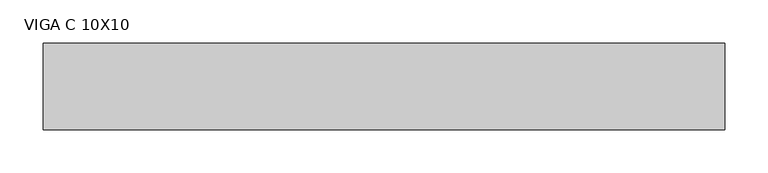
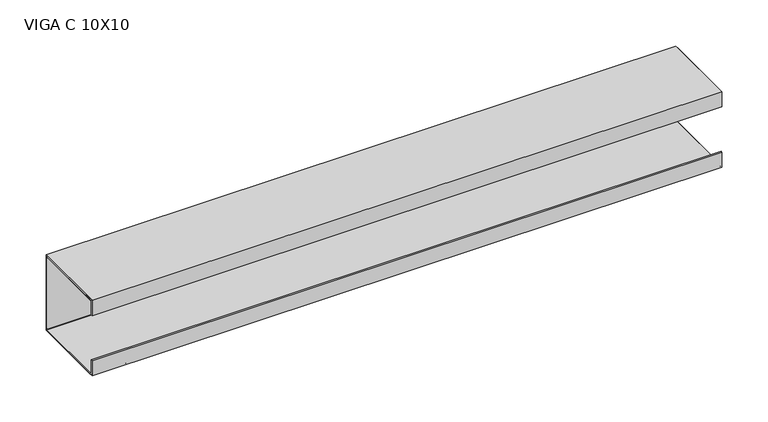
"""IFC4 building model written with IfcOpenShell, lengths in millimetres: beam geometry, VIGA PERFIL C AÇO : VIGA C 10X10."""

from ifc_helpers import new_model, si_unit, point, frame, frame_2d, origin, place, context, project, spatial, polyline, circle_curve, trimmed, segment, composite_curve, outline, extrude, source, transform, mapped, element, save


def viga_c_10x10_21cc423c(model_context):
    return source(origin(), model_context, "Body", "SweptSolid", [
        extrude(outline(polyline([(9.2, -50.0), (-90.8, -50.0), (-90.8, -30.0), (-88.9, -30.0), (-88.9, -48.1), (7.3, -48.1), (7.3, 48.1), (-88.9, 48.1), (-88.9, 30.0), (-90.8, 30.0), (-90.8, 50.0), (9.2, 50.0), (9.2, -50.0)])), frame((-402.0, 0.0, 0.0), z_axis=(1.0, 0.0, 0.0), x_axis=(0.0, 1.0, 0.0)), (0.0, 0.0, 1.0), 789.0),
        extrude(outline(composite_curve([segment(trimmed(circle_curve(frame_2d((5.4, -46.2)), 3.8), [point((9.2, -46.2))], [point((5.4, -50.0))], False, "CARTESIAN"), True, "CONTINUOUS"), segment(polyline([(5.4, -50.0), (-87.0, -50.0)]), True, "CONTINUOUS"), segment(trimmed(circle_curve(frame_2d((-87.0, -46.2)), 3.8), [point((-87.0, -50.0))], [point((-90.8, -46.2))], False, "CARTESIAN"), True, "CONTINUOUS"), segment(polyline([(-90.8, -46.2), (-90.8, -30.0), (-88.9, -30.0), (-88.9, -46.2)]), True, "CONTINUOUS"), segment(trimmed(circle_curve(frame_2d((-87.0, -46.2)), 1.9), [point((-88.9, -46.2))], [point((-87.0, -48.1))], True, "CARTESIAN"), True, "CONTINUOUS"), segment(polyline([(-87.0, -48.1), (5.4, -48.1)]), True, "CONTINUOUS"), segment(trimmed(circle_curve(frame_2d((5.4, -46.2)), 1.9), [point((5.4, -48.1))], [point((7.3, -46.2))], True, "CARTESIAN"), True, "CONTINUOUS"), segment(polyline([(7.3, -46.2), (7.3, 46.2)]), True, "CONTINUOUS"), segment(trimmed(circle_curve(frame_2d((5.4, 46.2)), 1.9), [point((7.3, 46.2))], [point((5.4, 48.1))], True, "CARTESIAN"), True, "CONTINUOUS"), segment(polyline([(5.4, 48.1), (-87.0, 48.1)]), True, "CONTINUOUS"), segment(trimmed(circle_curve(frame_2d((-87.0, 46.2)), 1.9), [point((-87.0, 48.1))], [point((-88.9, 46.2))], True, "CARTESIAN"), True, "CONTINUOUS"), segment(polyline([(-88.9, 46.2), (-88.9, 30.0), (-90.8, 30.0), (-90.8, 46.2)]), True, "CONTINUOUS"), segment(trimmed(circle_curve(frame_2d((-87.0, 46.2)), 3.8), [point((-90.8, 46.2))], [point((-87.0, 50.0))], False, "CARTESIAN"), True, "CONTINUOUS"), segment(polyline([(-87.0, 50.0), (5.4, 50.0)]), True, "CONTINUOUS"), segment(trimmed(circle_curve(frame_2d((5.4, 46.2)), 3.8), [point((5.4, 50.0))], [point((9.2, 46.2))], False, "CARTESIAN"), True, "CONTINUOUS"), segment(polyline([(9.2, 46.2), (9.2, -46.2)]), True, "CONTINUOUS")], self_intersect=False)), frame((-402.0, 0.0, 0.0), z_axis=(1.0, 0.0, 0.0), x_axis=(0.0, 1.0, 0.0)), (0.0, 0.0, 1.0), 789.0),
    ])


if __name__ == "__main__":
    model = new_model("IFC4")
    model_context = context("Model", 3, world=origin())
    ifc_project = project(units=[si_unit("LENGTHUNIT", "METRE", prefix="MILLI")], contexts=[model_context])
    site = spatial("IfcSite", under=ifc_project)
    building = spatial("IfcBuilding", under=site)
    placement = place(None, origin())
    viga_c_10x10_shape = viga_c_10x10_21cc423c(model_context)
    element("IfcBeam", 1, ObjectType="VIGA PERFIL C AÇO : VIGA C 10X10", at=placement, inside=building, context=model_context, shape_type="MappedRepresentation", body=[
        mapped(viga_c_10x10_shape, transform((0.0, 0.0, 0.0), x_axis=(1.0, 0.0, 0.0), y_axis=(0.0, 1.0, 0.0), z_axis=(0.0, 0.0, 1.0))),
    ])
    save(model, "model.ifc")
